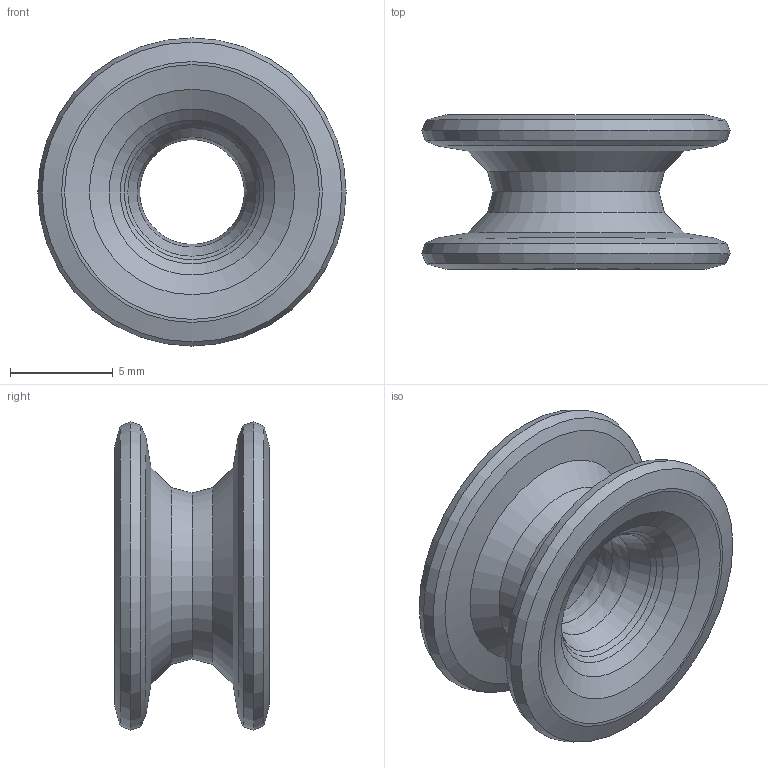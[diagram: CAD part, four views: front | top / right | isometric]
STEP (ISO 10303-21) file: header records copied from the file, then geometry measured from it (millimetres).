
FILE_DESCRIPTION(('Open CASCADE Model'),'2;1');
FILE_NAME('Open CASCADE Shape Model','2026-10-06T03:35:42',('Author'),( 'Open CASCADE'),'Open CASCADE STEP processor 7.8','Open CASCADE 7.8' ,'Unknown');
FILE_SCHEMA(('AUTOMOTIVE_DESIGN { 1 0 10303 214 1 1 1 1 }'));
Length unit declared in the file: millimetre
Products named in the file (1): Open CASCADE STEP translator 7.8 1
Bounding box: 15.01 x 7.5 x 15.01 mm (x, y, z)
Volume: 519.5 mm3; surface area: 784.6 mm2
Topology: 1 solids, 1 shells, 30 faces, 58 edges, 30 vertices
Faces by surface type: cone 28, plane 2
Entity records: 1512 total; most frequent: DIRECTION 266, CARTESIAN_POINT 235, LINE 140, VECTOR 140, ORIENTED_EDGE 116, PCURVE 116, DEFINITIONAL_REPRESENTATION 116, AXIS2_PLACEMENT_3D 61
